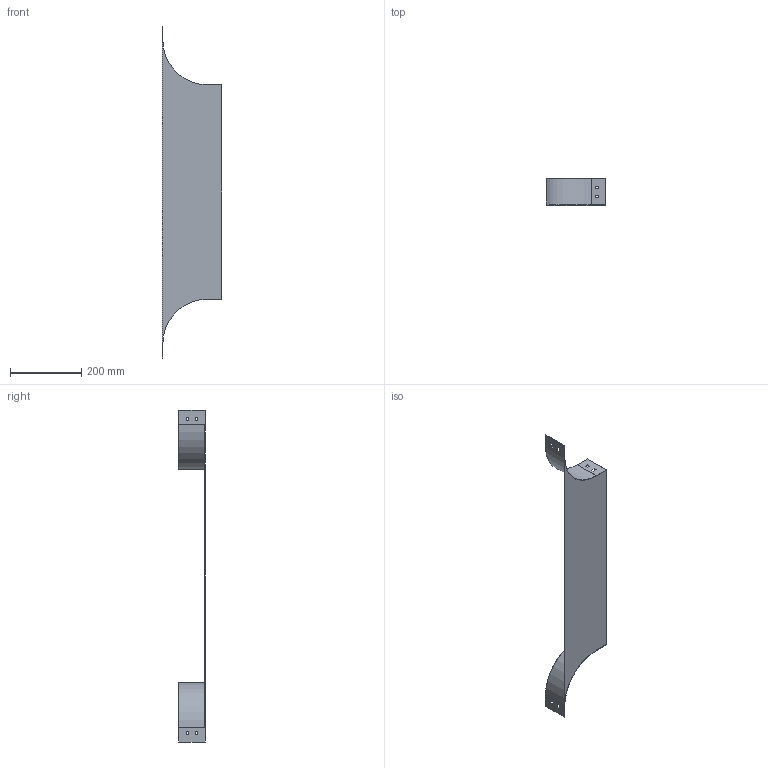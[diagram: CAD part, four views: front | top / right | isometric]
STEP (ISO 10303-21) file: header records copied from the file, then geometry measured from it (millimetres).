
FILE_DESCRIPTION (( 'STEP AP214' ), '1' );
FILE_NAME ('RL_607.step', '2025-07-16T09:25:58', ( '' ), ( '' ), 'SwSTEP 2.0', 'SolidWorks 2023', '' );
FILE_SCHEMA (( 'AUTOMOTIVE_DESIGN' ));
Length unit declared in the file: millimetre
Products named in the file (1): RL_607
Bounding box: 166.5 x 75 x 930 mm (x, y, z)
Volume: 221006.8 mm3; surface area: 298653.3 mm2
Topology: 1 solids, 1 shells, 50 faces, 144 edges, 96 vertices
Faces by surface type: plane 46, cylinder 4
Entity records: 1671 total; most frequent: CARTESIAN_POINT 291, ORIENTED_EDGE 288, DIRECTION 254, EDGE_CURVE 144, VECTOR 136, LINE 136, VERTEX_POINT 96, EDGE_LOOP 66
